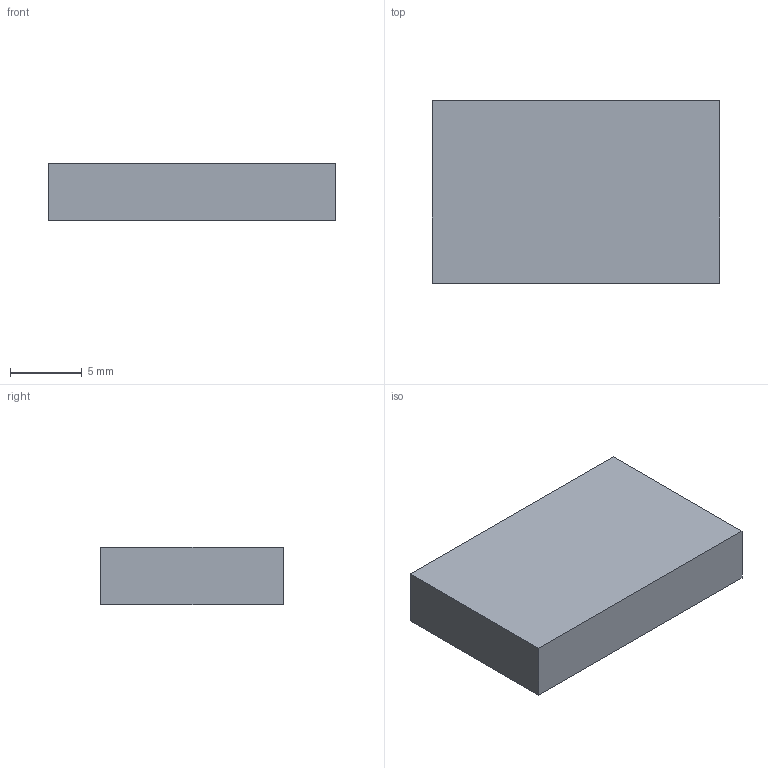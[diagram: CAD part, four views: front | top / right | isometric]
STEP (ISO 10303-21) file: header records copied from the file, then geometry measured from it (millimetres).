
FILE_DESCRIPTION(('FreeCAD Model'),'2;1');
FILE_NAME('Open CASCADE Shape Model','2026-10-31T13:49:49',('FreeCAD'),( 'FreeCAD'),'Open CASCADE STEP processor 7.8','FreeCAD','Unknown');
FILE_SCHEMA(('AUTOMOTIVE_DESIGN { 1 0 10303 214 1 1 1 1 }'));
Length unit declared in the file: millimetre
Products named in the file (1): Open CASCADE STEP translator 7.8 14
Bounding box: 20 x 12.7 x 4 mm (x, y, z)
Volume: 1016 mm3; surface area: 769.6 mm2
Topology: 1 solids, 1 shells, 6 faces, 12 edges, 8 vertices
Faces by surface type: plane 6
Entity records: 166 total; most frequent: CARTESIAN_POINT 27, DIRECTION 26, ORIENTED_EDGE 24, EDGE_CURVE 12, LINE 12, VECTOR 12, VERTEX_POINT 8, AXIS2_PLACEMENT_3D 7
